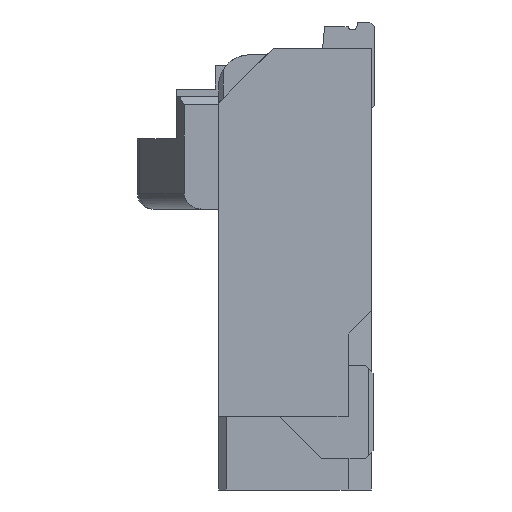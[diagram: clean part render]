
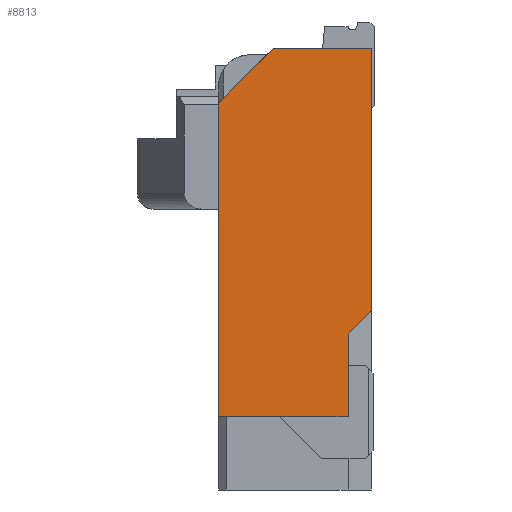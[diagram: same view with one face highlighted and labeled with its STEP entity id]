
A CAD part, left-side view. The second image highlights one B-rep face of the part: STEP entity #8813.
In plain terms, the highlighted planar face has unit normal (-1, 0, 0).
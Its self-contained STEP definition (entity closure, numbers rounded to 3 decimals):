
#1856 = DIRECTION ( 'NONE',  ( 0., 0., 1. ) ) ;
#1858 = CARTESIAN_POINT ( 'NONE',  ( -2.85, 1., -1.2 ) ) ;
#1867 = LINE ( 'NONE', #1858, #6583 ) ;
#2851 = CARTESIAN_POINT ( 'NONE',  ( -2.85, 0.02, -0.17 ) ) ;
#2852 = DIRECTION ( 'NONE',  ( 0., 0.707, -0.707 ) ) ;
#2889 = DIRECTION ( 'NONE',  ( 0., -0.707, 0.707 ) ) ;
#2892 = LINE ( 'NONE', #3078, #6390 ) ;
#2900 = CARTESIAN_POINT ( 'NONE',  ( -2.85, 0.17, -3. ) ) ;
#2960 = CARTESIAN_POINT ( 'NONE',  ( -2.85, 0.17, -2. ) ) ;
#3033 = DIRECTION ( 'NONE',  ( 0., 0., 1. ) ) ;
#3078 = CARTESIAN_POINT ( 'NONE',  ( -2.85, 1., -0.52 ) ) ;
#3108 = CARTESIAN_POINT ( 'NONE',  ( -2.85, 0.17, -2.53 ) ) ;
#3180 = LINE ( 'NONE', #3108, #6601 ) ;
#3257 = LINE ( 'NONE', #2960, #6609 ) ;
#3293 = DIRECTION ( 'NONE',  ( 0., 1., 0. ) ) ;
#3299 = LINE ( 'NONE', #2900, #6726 ) ;
#3355 = LINE ( 'NONE', #2851, #6538 ) ;
#3361 = DIRECTION ( 'NONE',  ( 0., -1., 0. ) ) ;
#3776 = VECTOR ( 'NONE', #9568, 1000. ) ;
#5004 = AXIS2_PLACEMENT_3D ( 'NONE', #17079, #17076, #17075 ) ;
#5371 = EDGE_LOOP ( 'NONE', ( #8300, #8301, #8299, #8294, #8292, #8297, #8296 ) ) ;
#6390 = VECTOR ( 'NONE', #2889, 1000. ) ;
#6538 = VECTOR ( 'NONE', #3361, 1000. ) ;
#6583 = VECTOR ( 'NONE', #1856, 1000. ) ;
#6601 = VECTOR ( 'NONE', #3293, 1000. ) ;
#6609 = VECTOR ( 'NONE', #2852, 1000. ) ;
#6726 = VECTOR ( 'NONE', #3033, 1000. ) ;
#6950 = CARTESIAN_POINT ( 'NONE',  ( -2.85, 0.02, -1.85 ) ) ;
#6985 = CARTESIAN_POINT ( 'NONE',  ( -2.85, 0.65, -0.17 ) ) ;
#6986 = CARTESIAN_POINT ( 'NONE',  ( -2.85, 0.17, -2. ) ) ;
#7148 = CARTESIAN_POINT ( 'NONE',  ( -2.85, 0.02, -0.17 ) ) ;
#7263 = CARTESIAN_POINT ( 'NONE',  ( -2.85, 0.17, -2.53 ) ) ;
#7341 = CARTESIAN_POINT ( 'NONE',  ( -2.85, 1., -2.53 ) ) ;
#8292 = ORIENTED_EDGE ( 'NONE', *, *, #10733, .F. ) ;
#8294 = ORIENTED_EDGE ( 'NONE', *, *, #11149, .F. ) ;
#8296 = ORIENTED_EDGE ( 'NONE', *, *, #11160, .T. ) ;
#8297 = ORIENTED_EDGE ( 'NONE', *, *, #11154, .F. ) ;
#8299 = ORIENTED_EDGE ( 'NONE', *, *, #11163, .F. ) ;
#8300 = ORIENTED_EDGE ( 'NONE', *, *, #11162, .F. ) ;
#8301 = ORIENTED_EDGE ( 'NONE', *, *, #11889, .F. ) ;
#8813 = ADVANCED_FACE ( 'NONE', ( #17082 ), #17078, .F. ) ;
#9566 = LINE ( 'NONE', #9567, #3776 ) ;
#9567 = CARTESIAN_POINT ( 'NONE',  ( -2.85, 0.02, -0.17 ) ) ;
#9568 = DIRECTION ( 'NONE',  ( 0., 0., -1. ) ) ;
#10606 = CARTESIAN_POINT ( 'NONE',  ( -2.85, 1., -0.52 ) ) ;
#10733 = EDGE_CURVE ( 'NONE', #15500, #15942, #1867, .T. ) ;
#11149 = EDGE_CURVE ( 'NONE', #15942, #15143, #2892, .T. ) ;
#11154 = EDGE_CURVE ( 'NONE', #15421, #15500, #3180, .T. ) ;
#11160 = EDGE_CURVE ( 'NONE', #15421, #15144, #3299, .T. ) ;
#11162 = EDGE_CURVE ( 'NONE', #15108, #15144, #3257, .T. ) ;
#11163 = EDGE_CURVE ( 'NONE', #15143, #15306, #3355, .T. ) ;
#11889 = EDGE_CURVE ( 'NONE', #15306, #15108, #9566, .T. ) ;
#15108 = VERTEX_POINT ( 'NONE', #6950 ) ;
#15143 = VERTEX_POINT ( 'NONE', #6985 ) ;
#15144 = VERTEX_POINT ( 'NONE', #6986 ) ;
#15306 = VERTEX_POINT ( 'NONE', #7148 ) ;
#15421 = VERTEX_POINT ( 'NONE', #7263 ) ;
#15500 = VERTEX_POINT ( 'NONE', #7341 ) ;
#15942 = VERTEX_POINT ( 'NONE', #10606 ) ;
#17075 = DIRECTION ( 'NONE',  ( 0., 0., 1. ) ) ;
#17076 = DIRECTION ( 'NONE',  ( 1., 0., 0. ) ) ;
#17078 = PLANE ( 'NONE',  #5004 ) ;
#17079 = CARTESIAN_POINT ( 'NONE',  ( -2.85, 0.53, -3. ) ) ;
#17082 = FACE_OUTER_BOUND ( 'NONE', #5371, .T. ) ;
